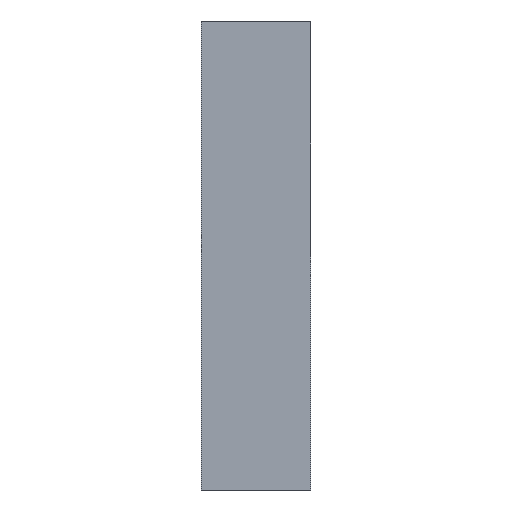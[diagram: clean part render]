
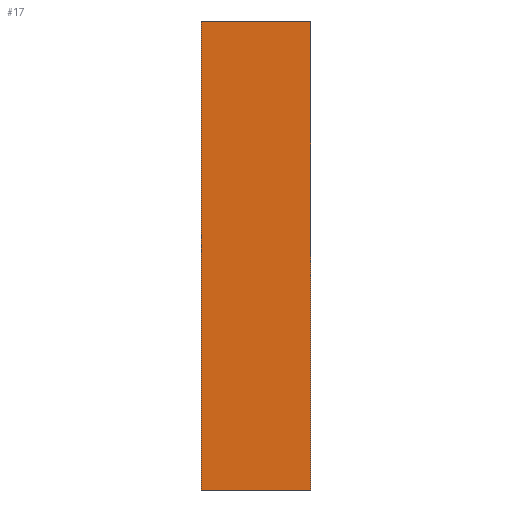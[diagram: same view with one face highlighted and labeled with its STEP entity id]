
A CAD part, left-side view. The second image highlights one B-rep face of the part: STEP entity #17.
In plain terms, the highlighted planar face has unit normal (-1, 0, 0).
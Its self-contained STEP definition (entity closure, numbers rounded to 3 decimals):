
#17 = ADVANCED_FACE('',(#18),#32,.F.);
#18 = FACE_BOUND('',#19,.T.);
#19 = EDGE_LOOP('',(#20,#55,#83,#111));
#20 = ORIENTED_EDGE('',*,*,#21,.F.);
#21 = EDGE_CURVE('',#22,#24,#26,.T.);
#22 = VERTEX_POINT('',#23);
#23 = CARTESIAN_POINT('',(-18.,45.,259.5));
#24 = VERTEX_POINT('',#25);
#25 = CARTESIAN_POINT('',(-18.,38.,259.5));
#26 = SURFACE_CURVE('',#27,(#31,#43),.PCURVE_S1.);
#27 = LINE('',#28,#29);
#28 = CARTESIAN_POINT('',(-18.,38.,259.5));
#29 = VECTOR('',#30,1.);
#30 = DIRECTION('',(0.,-1.,0.));
#31 = PCURVE('',#32,#37);
#32 = PLANE('',#33);
#33 = AXIS2_PLACEMENT_3D('',#34,#35,#36);
#34 = CARTESIAN_POINT('',(-18.,38.,229.5));
#35 = DIRECTION('',(1.,0.,0.));
#36 = DIRECTION('',(0.,0.,1.));
#37 = DEFINITIONAL_REPRESENTATION('',(#38),#42);
#38 = LINE('',#39,#40);
#39 = CARTESIAN_POINT('',(30.,0.));
#40 = VECTOR('',#41,1.);
#41 = DIRECTION('',(0.,1.));
#42 = ( GEOMETRIC_REPRESENTATION_CONTEXT(2) 
PARAMETRIC_REPRESENTATION_CONTEXT() REPRESENTATION_CONTEXT('2D SPACE',''
  ) );
#43 = PCURVE('',#44,#49);
#44 = PLANE('',#45);
#45 = AXIS2_PLACEMENT_3D('',#46,#47,#48);
#46 = CARTESIAN_POINT('',(-18.,38.,259.5));
#47 = DIRECTION('',(0.,0.,1.));
#48 = DIRECTION('',(1.,0.,0.));
#49 = DEFINITIONAL_REPRESENTATION('',(#50),#54);
#50 = LINE('',#51,#52);
#51 = CARTESIAN_POINT('',(0.,0.));
#52 = VECTOR('',#53,1.);
#53 = DIRECTION('',(0.,-1.));
#54 = ( GEOMETRIC_REPRESENTATION_CONTEXT(2) 
PARAMETRIC_REPRESENTATION_CONTEXT() REPRESENTATION_CONTEXT('2D SPACE',''
  ) );
#55 = ORIENTED_EDGE('',*,*,#56,.F.);
#56 = EDGE_CURVE('',#57,#22,#59,.T.);
#57 = VERTEX_POINT('',#58);
#58 = CARTESIAN_POINT('',(-18.,45.,229.5));
#59 = SURFACE_CURVE('',#60,(#64,#71),.PCURVE_S1.);
#60 = LINE('',#61,#62);
#61 = CARTESIAN_POINT('',(-18.,45.,229.5));
#62 = VECTOR('',#63,1.);
#63 = DIRECTION('',(0.,0.,1.));
#64 = PCURVE('',#32,#65);
#65 = DEFINITIONAL_REPRESENTATION('',(#66),#70);
#66 = LINE('',#67,#68);
#67 = CARTESIAN_POINT('',(0.,-7.));
#68 = VECTOR('',#69,1.);
#69 = DIRECTION('',(1.,0.));
#70 = ( GEOMETRIC_REPRESENTATION_CONTEXT(2) 
PARAMETRIC_REPRESENTATION_CONTEXT() REPRESENTATION_CONTEXT('2D SPACE',''
  ) );
#71 = PCURVE('',#72,#77);
#72 = PLANE('',#73);
#73 = AXIS2_PLACEMENT_3D('',#74,#75,#76);
#74 = CARTESIAN_POINT('',(-18.,45.,229.5));
#75 = DIRECTION('',(0.,1.,0.));
#76 = DIRECTION('',(0.,0.,1.));
#77 = DEFINITIONAL_REPRESENTATION('',(#78),#82);
#78 = LINE('',#79,#80);
#79 = CARTESIAN_POINT('',(0.,0.));
#80 = VECTOR('',#81,1.);
#81 = DIRECTION('',(1.,0.));
#82 = ( GEOMETRIC_REPRESENTATION_CONTEXT(2) 
PARAMETRIC_REPRESENTATION_CONTEXT() REPRESENTATION_CONTEXT('2D SPACE',''
  ) );
#83 = ORIENTED_EDGE('',*,*,#84,.T.);
#84 = EDGE_CURVE('',#57,#85,#87,.T.);
#85 = VERTEX_POINT('',#86);
#86 = CARTESIAN_POINT('',(-18.,38.,229.5));
#87 = SURFACE_CURVE('',#88,(#92,#99),.PCURVE_S1.);
#88 = LINE('',#89,#90);
#89 = CARTESIAN_POINT('',(-18.,38.,229.5));
#90 = VECTOR('',#91,1.);
#91 = DIRECTION('',(0.,-1.,0.));
#92 = PCURVE('',#32,#93);
#93 = DEFINITIONAL_REPRESENTATION('',(#94),#98);
#94 = LINE('',#95,#96);
#95 = CARTESIAN_POINT('',(0.,0.));
#96 = VECTOR('',#97,1.);
#97 = DIRECTION('',(0.,1.));
#98 = ( GEOMETRIC_REPRESENTATION_CONTEXT(2) 
PARAMETRIC_REPRESENTATION_CONTEXT() REPRESENTATION_CONTEXT('2D SPACE',''
  ) );
#99 = PCURVE('',#100,#105);
#100 = PLANE('',#101);
#101 = AXIS2_PLACEMENT_3D('',#102,#103,#104);
#102 = CARTESIAN_POINT('',(-18.,38.,229.5));
#103 = DIRECTION('',(0.,0.,1.));
#104 = DIRECTION('',(1.,0.,0.));
#105 = DEFINITIONAL_REPRESENTATION('',(#106),#110);
#106 = LINE('',#107,#108);
#107 = CARTESIAN_POINT('',(0.,0.));
#108 = VECTOR('',#109,1.);
#109 = DIRECTION('',(0.,-1.));
#110 = ( GEOMETRIC_REPRESENTATION_CONTEXT(2) 
PARAMETRIC_REPRESENTATION_CONTEXT() REPRESENTATION_CONTEXT('2D SPACE',''
  ) );
#111 = ORIENTED_EDGE('',*,*,#112,.T.);
#112 = EDGE_CURVE('',#85,#24,#113,.T.);
#113 = SURFACE_CURVE('',#114,(#118,#125),.PCURVE_S1.);
#114 = LINE('',#115,#116);
#115 = CARTESIAN_POINT('',(-18.,38.,229.5));
#116 = VECTOR('',#117,1.);
#117 = DIRECTION('',(0.,0.,1.));
#118 = PCURVE('',#32,#119);
#119 = DEFINITIONAL_REPRESENTATION('',(#120),#124);
#120 = LINE('',#121,#122);
#121 = CARTESIAN_POINT('',(0.,0.));
#122 = VECTOR('',#123,1.);
#123 = DIRECTION('',(1.,0.));
#124 = ( GEOMETRIC_REPRESENTATION_CONTEXT(2) 
PARAMETRIC_REPRESENTATION_CONTEXT() REPRESENTATION_CONTEXT('2D SPACE',''
  ) );
#125 = PCURVE('',#126,#131);
#126 = PLANE('',#127);
#127 = AXIS2_PLACEMENT_3D('',#128,#129,#130);
#128 = CARTESIAN_POINT('',(-18.,38.,229.5));
#129 = DIRECTION('',(0.,1.,0.));
#130 = DIRECTION('',(0.,0.,1.));
#131 = DEFINITIONAL_REPRESENTATION('',(#132),#136);
#132 = LINE('',#133,#134);
#133 = CARTESIAN_POINT('',(0.,0.));
#134 = VECTOR('',#135,1.);
#135 = DIRECTION('',(1.,0.));
#136 = ( GEOMETRIC_REPRESENTATION_CONTEXT(2) 
PARAMETRIC_REPRESENTATION_CONTEXT() REPRESENTATION_CONTEXT('2D SPACE',''
  ) );
